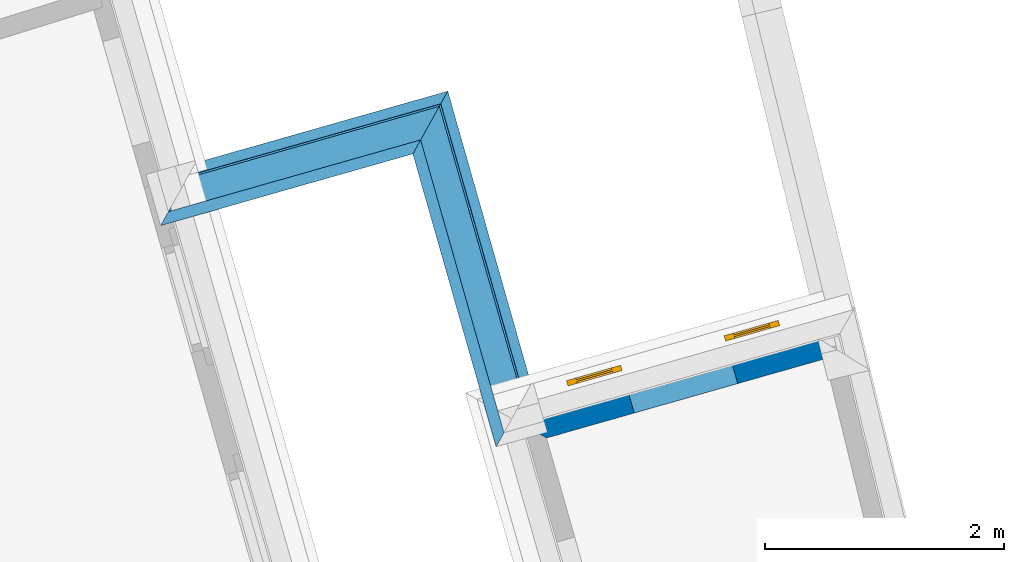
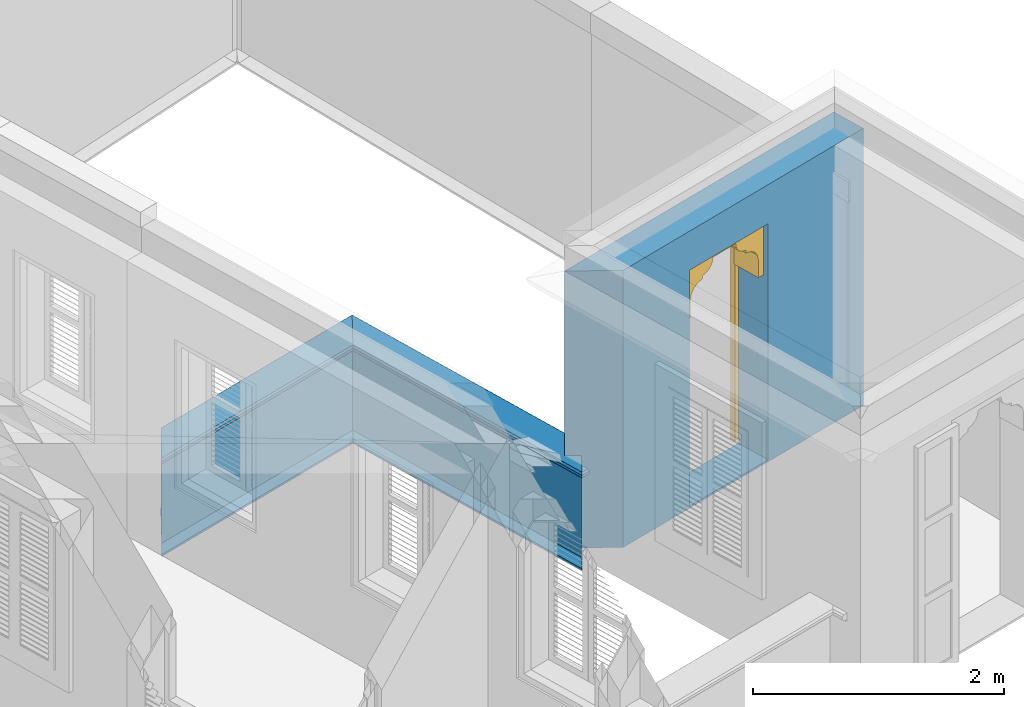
# One storey, part 8 of 13: 7 walls, 1 door, 1 opening.
"""IFC4 building model written with IfcOpenShell, lengths in metres."""

from ifc_helpers import new_model, si_unit, frame, origin, origin_with_axes, place, context, subcontext, project, spatial, polyline, outline, extrude, clip, halfspace, faceted_brep, source, transform, mapped, material, layer, layer_set, layer_usage, material_profile, profile_set, profile_usage, type_object, type_shapes, element, fill, save


model = new_model("IFC4")

# Units and contexts
model_context = context("Model", 3, world=origin_with_axes())
body_context = subcontext(model_context, "Body", "Model", "MODEL_VIEW")
ifc_project = project(units=[si_unit("PLANEANGLEUNIT", "RADIAN"), si_unit("MASSUNIT", "GRAM", prefix="KILO"), si_unit("FORCEUNIT", "NEWTON", prefix="KILO"), si_unit("LENGTHUNIT", "METRE"), si_unit("AREAUNIT", "SQUARE_METRE"), si_unit("VOLUMEUNIT", "CUBIC_METRE")], contexts=[model_context, model_context])

# Site, building, storey
site_placement = place(None, origin_with_axes())
site = spatial("IfcSite", under=ifc_project, at=site_placement, Name="Site plot-3", CompositionType="ELEMENT")
building_placement = place(None, origin_with_axes())
building = spatial("IfcBuilding", under=site, at=building_placement, Name="Building plot-3", CompositionType="ELEMENT")
storey_placement = place(None, frame((0.0, 0.0, 3.3), z_axis=(0.0, 0.0, 1.0), x_axis=(1.0, 0.0, 0.0)))
storey = spatial("IfcBuildingStorey", under=building, at=storey_placement, Name="plot-3 1", CompositionType="ELEMENT", Elevation=3.3)

# Wall, opening, door
ifc_material = material(Name="Masonry")
ifc_layer = layer(ifc_material, 0.33, ventilated=False)
ifc_layer_set = layer_set([ifc_layer], Name="exterior_0.08_0.25")
ifc_layer_usage = layer_usage(ifc_layer_set, "AXIS2", "POSITIVE", -0.25)
wall_type_1 = type_object("IfcWallType", Name="exterior_0.08_0.25", PredefinedType="SOLIDWALL", material=ifc_layer_set)
wall_1_placement = place(storey_placement, frame((15.7349459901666, 23.7779529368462, 0.0), z_axis=(0.0, 0.0, 1.0), x_axis=(-0.961841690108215, -0.273606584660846, 0.0)))
wall_1 = element("IfcWall", 1, at=wall_1_placement, inside=storey, type_object=wall_type_1, material=ifc_layer_usage, Name="exterior", context=body_context, shape_type="SweptSolid", body=[
    extrude(outline(polyline([(-0.25, 0.0800000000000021), (-0.25, -0.249999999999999), (2.83528096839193, -0.249999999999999), (2.50528096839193, 0.0799999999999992), (-0.25, 0.0800000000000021)])), origin_with_axes(), (0.0, 0.0, 1.0), 2.7),
])
opening_placement = place(wall_1_placement, frame((0.842640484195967, 0.0, 0.02)))
opening = element("IfcOpeningElement", 2, at=opening_placement, cuts=wall_1, Name="My Opening", ObjectType="Opening", context=body_context, shape_type="SweptSolid", body=[
    extrude(outline(polyline([(0.0, -0.270000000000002), (0.900000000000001, -0.27), (0.900000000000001, 1.1), (4.44089209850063e-16, 1.1), (0.0, -0.270000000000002)])), origin_with_axes(), (0.0, 0.0, 1.0), 2.3),
])
door_type = type_object("IfcDoorType", Name="arch-900x2300", OperationType="SINGLE_SWING_LEFT", PredefinedType="NOTDEFINED")
shared_shape = source(origin(), body_context, "Body", "Brep", [
    faceted_brep([(-0.08, -0.02, 0.08), (-0.08, -0.02, 0.0), (-0.39, -0.02, 0.0), (-0.39, -0.02, 0.08), (-0.47, -0.02, 0.0), (-0.47, -0.02, 0.08), (-0.39, -0.035, 0.08), (-0.08, -0.035, 0.08), (0.0, -0.02, 0.08), (0.0, -0.02, 0.0), (-0.08, -0.066, 0.0), (-0.39, -0.066, 0.0), (-0.47, -0.066, 0.0), (-0.47, -0.066, 0.08), (-0.39, -0.02, 0.743333), (-0.47, -0.02, 0.743333), (-0.39, -0.035, 0.743333), (-0.08, -0.035, 0.743333), (-0.08, -0.02, 0.743333), (0.0, -0.02, 0.743333), (0.0, -0.066, 0.08), (0.0, -0.066, 0.0), (-0.39, -0.066, 0.08), (-0.08, -0.066, 0.08), (-0.47, -0.066, 0.743333), (-0.39, -0.02, 0.823333), (-0.47, -0.02, 0.823333), (0.0, -0.066, 0.743333), (0.0, -0.02, 0.823333), (-0.08, -0.02, 0.823333), (-0.08, -0.051, 0.08), (-0.39, -0.051, 0.08), (-0.39, -0.066, 0.743333), (-0.47, -0.066, 0.823333), (-0.39, -0.02, 1.486667), (-0.47, -0.02, 1.486667), (0.0, -0.066, 0.823333), (-0.08, -0.066, 0.743333), (0.0, -0.02, 1.486667), (-0.08, -0.02, 1.486667), (-0.08, -0.051, 0.743333), (-0.39, -0.051, 0.743333), (-0.39, -0.066, 0.823333), (-0.47, -0.066, 1.486667), (-0.39, -0.035, 0.823333), (-0.08, -0.035, 0.823333), (-0.39, -0.035, 1.486667), (-0.39, -0.02, 1.566667), (-0.47, -0.02, 1.566667), (0.0, -0.066, 1.486667), (-0.08, -0.066, 0.823333), (-0.08, -0.035, 1.486667), (0.0, -0.02, 1.566667), (-0.08, -0.02, 1.566667), (-0.39, -0.066, 1.486667), (-0.47, -0.066, 1.566667), (-0.39, -0.02, 2.23), (-0.47, -0.02, 2.23), (0.0, -0.066, 1.566667), (-0.08, -0.066, 1.486667), (0.0, -0.02, 2.23), (-0.08, -0.02, 2.23), (-0.08, -0.051, 0.823333), (-0.39, -0.051, 0.823333), (-0.39, -0.051, 1.486667), (-0.39, -0.066, 1.566667), (-0.47, -0.066, 2.23), (-0.39, -0.035, 1.566667), (-0.08, -0.035, 1.566667), (-0.39, -0.035, 2.23), (-0.39, -0.02, 2.31), (-0.47, -0.02, 2.31), (0.0, -0.066, 2.23), (-0.08, -0.066, 1.566667), (-0.08, -0.051, 1.486667), (-0.08, -0.035, 2.23), (0.0, -0.02, 2.31), (-0.08, -0.02, 2.31), (-0.39, -0.066, 2.23), (-0.47, -0.066, 2.31), (-0.39, -0.066, 2.31), (0.0, -0.066, 2.31), (-0.08, -0.066, 2.23), (-0.08, -0.066, 2.31), (-0.08, -0.051, 1.566667), (-0.39, -0.051, 1.566667), (-0.39, -0.051, 2.23), (-0.08, -0.051, 2.23), (1.29, -0.02, 0.08), (1.29, -0.02, 0.0), (0.98, -0.02, 0.0), (0.98, -0.02, 0.08), (1.37, -0.02, 0.08), (1.37, -0.02, 0.0), (0.98, -0.035, 0.08), (1.29, -0.035, 0.08), (0.9, -0.02, 0.0), (0.9, -0.02, 0.08), (1.29, -0.066, 0.0), (0.98, -0.066, 0.0), (1.37, -0.066, 0.08), (1.37, -0.066, 0.0), (1.37, -0.02, 0.743333), (1.29, -0.02, 0.743333), (1.29, -0.035, 0.743333), (0.98, -0.035, 0.743333), (0.98, -0.02, 0.743333), (0.9, -0.02, 0.743333), (0.9, -0.066, 0.0), (0.9, -0.066, 0.08), (0.98, -0.066, 0.08), (1.29, -0.066, 0.08), (1.37, -0.066, 0.743333), (1.37, -0.02, 0.823333), (1.29, -0.02, 0.823333), (0.9, -0.066, 0.743333), (0.98, -0.02, 0.823333), (0.9, -0.02, 0.823333), (1.29, -0.051, 0.08), (0.98, -0.051, 0.08), (1.29, -0.066, 0.743333), (1.37, -0.066, 0.823333), (1.37, -0.02, 1.486667), (1.29, -0.02, 1.486667), (0.9, -0.066, 0.823333), (0.98, -0.066, 0.743333), (0.98, -0.02, 1.486667), (0.9, -0.02, 1.486667), (0.98, -0.051, 0.743333), (1.29, -0.051, 0.743333), (1.29, -0.066, 0.823333), (1.37, -0.066, 1.486667), (0.98, -0.035, 0.823333), (1.29, -0.035, 0.823333), (1.29, -0.035, 1.486667), (1.37, -0.02, 1.566667), (1.29, -0.02, 1.566667), (0.9, -0.066, 1.486667), (0.98, -0.066, 0.823333), (0.98, -0.035, 1.486667), (0.98, -0.02, 1.566667), (0.9, -0.02, 1.566667), (1.29, -0.066, 1.486667), (1.37, -0.066, 1.566667), (1.37, -0.02, 2.23), (1.29, -0.02, 2.23), (0.9, -0.066, 1.566667), (0.98, -0.066, 1.486667), (0.98, -0.02, 2.23), (0.9, -0.02, 2.23), (1.29, -0.051, 0.823333), (0.98, -0.051, 0.823333), (1.29, -0.051, 1.486667), (1.29, -0.066, 1.566667), (1.37, -0.066, 2.23), (0.98, -0.035, 1.566667), (1.29, -0.035, 1.566667), (1.29, -0.035, 2.23), (1.37, -0.02, 2.31), (1.29, -0.02, 2.31), (0.9, -0.066, 2.23), (0.98, -0.066, 1.566667), (0.98, -0.051, 1.486667), (0.98, -0.035, 2.23), (0.98, -0.02, 2.31), (0.9, -0.02, 2.31), (1.29, -0.066, 2.23), (1.37, -0.066, 2.31), (1.29, -0.066, 2.31), (0.9, -0.066, 2.31), (0.98, -0.066, 2.23), (0.98, -0.066, 2.31), (1.29, -0.051, 1.566667), (0.98, -0.051, 1.566667), (1.29, -0.051, 2.23), (0.98, -0.051, 2.23), (0.9, 0.03, 1.78), (0.9, 0.03, 1.95), (0.84, 0.03, 1.95), (0.84, 0.03, 1.78), (0.84, 0.3, 1.95), (0.84, 0.3, 1.78), (0.9, 0.03, 2.12), (0.829, 0.03, 2.004), (0.9, 0.3, 1.78), (0.9, 0.3, 1.95), (0.829, 0.3, 2.004), (0.799, 0.03, 2.049), (0.9, 0.3, 2.12), (0.799, 0.3, 2.049), (0.754, 0.03, 2.079), (0.9, 0.3, 2.29), (0.9, 0.03, 2.29), (0.754, 0.3, 2.079), (0.7, 0.03, 2.09), (0.7, 0.03, 2.12), (0.654, 0.03, 2.129), (0.58, 0.3, 2.29), (0.58, 0.03, 2.29), (0.7, 0.3, 2.12), (0.654, 0.3, 2.129), (0.7, 0.3, 2.09), (0.615, 0.03, 2.155), (0.589, 0.3, 2.194), (0.58, 0.3, 2.24), (0.58, 0.03, 2.24), (0.589, 0.03, 2.194), (0.615, 0.3, 2.155), (0.06, 0.03, 1.78), (0.06, 0.03, 1.95), (0.0, 0.03, 1.95), (0.0, 0.03, 1.78), (0.06, 0.3, 1.78), (0.06, 0.3, 1.95), (0.071, 0.03, 2.004), (0.0, 0.03, 2.12), (0.0, 0.3, 1.95), (0.0, 0.3, 1.78), (0.071, 0.3, 2.004), (0.101, 0.03, 2.049), (0.0, 0.3, 2.12), (0.101, 0.3, 2.049), (0.146, 0.03, 2.079), (0.0, 0.03, 2.29), (0.0, 0.3, 2.29), (0.146, 0.3, 2.079), (0.2, 0.03, 2.12), (0.2, 0.03, 2.09), (0.246, 0.03, 2.129), (0.32, 0.03, 2.29), (0.32, 0.3, 2.29), (0.246, 0.3, 2.129), (0.2, 0.3, 2.12), (0.2, 0.3, 2.09), (0.285, 0.03, 2.155), (0.32, 0.3, 2.24), (0.311, 0.3, 2.194), (0.311, 0.03, 2.194), (0.32, 0.03, 2.24), (0.285, 0.3, 2.155)], [[[0, 1, 2, 3]], [[4, 5, 3, 2]], [[0, 3, 6, 7]], [[1, 0, 8, 9]], [[2, 1, 10, 11]], [[5, 4, 12, 13]], [[14, 3, 5, 15]], [[4, 2, 11, 12]], [[3, 14, 16, 6]], [[6, 16, 17, 7]], [[18, 0, 7, 17]], [[0, 18, 19, 8]], [[9, 8, 20, 21]], [[1, 9, 21, 10]], [[22, 11, 10, 23]], [[13, 12, 11, 22]], [[15, 5, 13, 24]], [[25, 14, 15, 26]], [[14, 18, 17, 16]], [[8, 19, 27, 20]], [[28, 19, 18, 29]], [[23, 10, 21, 20]], [[22, 23, 30, 31]], [[22, 32, 24, 13]], [[26, 15, 24, 33]], [[29, 18, 14, 25]], [[34, 25, 26, 35]], [[19, 28, 36, 27]], [[20, 27, 37, 23]], [[38, 28, 29, 39]], [[23, 37, 40, 30]], [[41, 31, 30, 40]], [[32, 22, 31, 41]], [[32, 42, 33, 24]], [[35, 26, 33, 43]], [[29, 25, 44, 45]], [[25, 34, 46, 44]], [[47, 34, 35, 48]], [[28, 38, 49, 36]], [[27, 36, 50, 37]], [[39, 29, 45, 51]], [[52, 38, 39, 53]], [[37, 32, 41, 40]], [[37, 50, 42, 32]], [[42, 54, 43, 33]], [[48, 35, 43, 55]], [[44, 46, 51, 45]], [[34, 39, 51, 46]], [[34, 47, 53, 39]], [[56, 47, 48, 57]], [[38, 52, 58, 49]], [[36, 49, 59, 50]], [[60, 52, 53, 61]], [[42, 50, 62, 63]], [[54, 42, 63, 64]], [[54, 65, 55, 43]], [[57, 48, 55, 66]], [[53, 47, 67, 68]], [[47, 56, 69, 67]], [[70, 56, 57, 71]], [[52, 60, 72, 58]], [[49, 58, 73, 59]], [[50, 59, 74, 62]], [[61, 53, 68, 75]], [[76, 60, 61, 77]], [[64, 63, 62, 74]], [[59, 54, 64, 74]], [[65, 54, 59, 73]], [[65, 78, 66, 55]], [[71, 57, 66, 79]], [[67, 69, 75, 68]], [[56, 61, 75, 69]], [[77, 61, 56, 70]], [[70, 71, 79, 80]], [[60, 76, 81, 72]], [[58, 72, 82, 73]], [[76, 77, 83, 81]], [[65, 73, 84, 85]], [[78, 65, 85, 86]], [[78, 80, 79, 66]], [[77, 70, 80, 83]], [[72, 81, 83, 82]], [[73, 82, 87, 84]], [[86, 85, 84, 87]], [[82, 78, 86, 87]], [[82, 83, 80, 78]], [[88, 89, 90, 91]], [[89, 88, 92, 93]], [[94, 95, 88, 91]], [[96, 97, 91, 90]], [[98, 99, 90, 89]], [[100, 101, 93, 92]], [[102, 92, 88, 103]], [[101, 98, 89, 93]], [[95, 104, 103, 88]], [[94, 105, 104, 95]], [[105, 94, 91, 106]], [[97, 107, 106, 91]], [[108, 109, 97, 96]], [[99, 108, 96, 90]], [[110, 99, 98, 111]], [[111, 98, 101, 100]], [[112, 100, 92, 102]], [[113, 102, 103, 114]], [[104, 105, 106, 103]], [[109, 115, 107, 97]], [[116, 106, 107, 117]], [[109, 108, 99, 110]], [[118, 119, 110, 111]], [[100, 112, 120, 111]], [[121, 112, 102, 113]], [[114, 103, 106, 116]], [[122, 113, 114, 123]], [[115, 124, 117, 107]], [[110, 125, 115, 109]], [[126, 116, 117, 127]], [[119, 128, 125, 110]], [[128, 119, 118, 129]], [[129, 118, 111, 120]], [[112, 121, 130, 120]], [[131, 121, 113, 122]], [[132, 133, 114, 116]], [[133, 134, 123, 114]], [[135, 122, 123, 136]], [[124, 137, 127, 117]], [[125, 138, 124, 115]], [[139, 132, 116, 126]], [[140, 126, 127, 141]], [[128, 129, 120, 125]], [[120, 130, 138, 125]], [[121, 131, 142, 130]], [[143, 131, 122, 135]], [[132, 139, 134, 133]], [[134, 139, 126, 123]], [[126, 140, 136, 123]], [[144, 135, 136, 145]], [[137, 146, 141, 127]], [[138, 147, 137, 124]], [[148, 140, 141, 149]], [[150, 151, 138, 130]], [[152, 150, 130, 142]], [[131, 143, 153, 142]], [[154, 143, 135, 144]], [[155, 156, 136, 140]], [[156, 157, 145, 136]], [[158, 144, 145, 159]], [[146, 160, 149, 141]], [[147, 161, 146, 137]], [[151, 162, 147, 138]], [[163, 155, 140, 148]], [[164, 148, 149, 165]], [[162, 151, 150, 152]], [[162, 152, 142, 147]], [[161, 147, 142, 153]], [[143, 154, 166, 153]], [[167, 154, 144, 158]], [[155, 163, 157, 156]], [[157, 163, 148, 145]], [[159, 145, 148, 164]], [[168, 167, 158, 159]], [[160, 169, 165, 149]], [[161, 170, 160, 146]], [[169, 171, 164, 165]], [[172, 173, 161, 153]], [[174, 172, 153, 166]], [[154, 167, 168, 166]], [[171, 168, 159, 164]], [[170, 171, 169, 160]], [[173, 175, 170, 161]], [[175, 173, 172, 174]], [[175, 174, 166, 170]], [[166, 168, 171, 170]], [[176, 177, 178, 179]], [[180, 181, 179, 178]], [[177, 182, 183, 178]], [[177, 176, 184, 185]], [[181, 184, 176, 179]], [[181, 180, 185, 184]], [[186, 180, 178, 183]], [[182, 187, 183]], [[182, 177, 185, 188]], [[180, 186, 188, 185]], [[189, 186, 183, 187]], [[182, 190, 187]], [[188, 191, 192, 182]], [[188, 186, 189]], [[193, 189, 187, 190]], [[194, 190, 182, 195]], [[182, 192, 196, 195]], [[192, 191, 197, 198]], [[199, 200, 191, 188]], [[188, 189, 193]], [[201, 193, 190, 194]], [[199, 201, 194, 195]], [[200, 199, 195, 196]], [[192, 202, 196]], [[191, 203, 204, 197]], [[192, 198, 205, 206]], [[207, 191, 200]], [[199, 188, 193, 201]], [[207, 200, 196, 202]], [[192, 206, 202]], [[204, 203, 206, 205]], [[203, 191, 207]], [[203, 207, 202, 206]], [[208, 209, 210, 211]], [[209, 208, 212, 213]], [[209, 214, 215, 210]], [[211, 210, 216, 217]], [[208, 211, 217, 212]], [[217, 216, 213, 212]], [[214, 209, 213, 218]], [[214, 219, 215]], [[220, 216, 210, 215]], [[216, 220, 218, 213]], [[219, 214, 218, 221]], [[219, 222, 215]], [[215, 223, 224, 220]], [[221, 218, 220]], [[222, 219, 221, 225]], [[226, 215, 222, 227]], [[226, 228, 223, 215]], [[229, 230, 224, 223]], [[220, 224, 231, 232]], [[225, 221, 220]], [[227, 222, 225, 233]], [[226, 227, 233, 232]], [[228, 226, 232, 231]], [[228, 234, 223]], [[230, 235, 236, 224]], [[237, 238, 229, 223]], [[231, 224, 239]], [[233, 225, 220, 232]], [[234, 228, 231, 239]], [[234, 237, 223]], [[238, 237, 236, 235]], [[239, 224, 236]], [[237, 234, 239, 236]], [[238, 235, 204, 205]], [[235, 230, 197, 204]], [[229, 238, 205, 198]], [[230, 229, 198, 197]]]),
])
type_shapes(door_type, [shared_shape])
door_placement = place(storey_placement, frame((14.8505854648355, 23.8070982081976, 0.02), z_axis=(0.0, 0.0, 1.0), x_axis=(-0.865657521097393, -0.246245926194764, 0.0)))
door = element("IfcDoor", 3, at=door_placement, inside=storey, type_object=door_type, Name="circulation sahn door", OverallHeight=2.3, OverallWidth=0.9, context=body_context, shape_type="MappedRepresentation", body=[
    mapped(shared_shape, transform((0.0, 0.0, 0.0), scale=1.0)),
])
fill(opening, door)

# Walls
ifc_material_profile_1 = material_profile(None, outline(polyline([(0.25, 0.0), (0.25, 0.795), (0.09, 0.795), (0.09, 0.02), (-0.08, 0.02), (-0.08, 0.0), (0.25, 0.0)])))
ifc_profile_set_1 = profile_set([ifc_material_profile_1])
ifc_profile_usage_1 = profile_usage(ifc_profile_set_1)
wall_type_2 = type_object("IfcWallType", Name="parapet internal_0", PredefinedType="PARAPET", material=ifc_profile_set_1)
wall_2_placement = place(storey_placement, frame((13.4287909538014, 26.091037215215, 0.0), z_axis=(-0.961841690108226, -0.273606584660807, 0.0), x_axis=(0.273606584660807, -0.961841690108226, 0.0)))
element("IfcWall", 4, at=wall_2_placement, inside=storey, type_object=wall_type_2, material=ifc_profile_usage_1, Name="parapet internal_0", context=body_context, shape_type="Clipping", body=[
    clip(clip(extrude(outline(polyline([(0.25, 0.0), (0.25, 0.795), (0.09, 0.795), (0.09, 0.02), (-0.08, 0.02), (-0.08, 0.0), (0.25, 0.0)])), origin_with_axes(), (0.0, 0.0, 1.0), 4.19293777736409), halfspace(frame((0.0, 0.0, 3.19293777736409), z_axis=(0.707106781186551, 0.0, -0.707106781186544), x_axis=(0.0, 1.0, 0.0)), True)), halfspace(frame((0.0, 0.0, 1.0), z_axis=(0.707106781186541, 0.0, -0.707106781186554), x_axis=(0.0, 1.0, 0.0)), False)),
])
ifc_profile_usage_2 = profile_usage(ifc_profile_set_1)
wall_3_placement = place(storey_placement, frame((13.4371035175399, 22.4069322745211, 0.0), z_axis=(-0.273606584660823, 0.961841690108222, 0.0), x_axis=(-0.961841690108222, -0.273606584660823, 0.0)))
element("IfcWall", 5, at=wall_3_placement, inside=storey, type_object=wall_type_2, material=ifc_profile_usage_2, Name="parapet internal_0", context=body_context, shape_type="Clipping", body=[
    clip(clip(extrude(outline(polyline([(0.25, 0.0), (0.25, 0.795), (0.09, 0.795), (0.09, 0.02), (-0.08, 0.02), (-0.08, 0.0), (0.25, 0.0)])), origin_with_axes(), (0.0, 0.0, 1.0), 4.54580009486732), halfspace(frame((0.0, 0.0, 3.54580009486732), z_axis=(-0.707106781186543, 0.0, -0.707106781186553), x_axis=(0.0, 1.0, 0.0)), True)), halfspace(frame((0.0, 0.0, 1.0), z_axis=(-0.707106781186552, 0.0, -0.707106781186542), x_axis=(0.0, 1.0, 0.0)), False)),
])
ifc_material_profile_2 = material_profile(None, outline(polyline([(0.265, 0.795), (0.268, 0.807), (0.274, 0.816), (0.283, 0.822), (0.295, 0.825), (0.295, 0.84), (0.305, 0.84), (0.317, 0.842), (0.326, 0.849), (0.333, 0.858), (0.335, 0.87), (0.333, 0.882), (0.326, 0.891), (0.317, 0.898), (0.305, 0.9), (0.035, 0.9), (0.023, 0.898), (0.014, 0.891), (0.007, 0.882), (0.005, 0.87), (0.007, 0.858), (0.014, 0.849), (0.023, 0.842), (0.035, 0.84), (0.045, 0.84), (0.045, 0.825), (0.057, 0.822), (0.066, 0.816), (0.072, 0.807), (0.075, 0.795), (0.265, 0.795)])))
ifc_profile_set_2 = profile_set([ifc_material_profile_2])
ifc_profile_usage_3 = profile_usage(ifc_profile_set_2)
wall_type_3 = type_object("IfcWallType", Name="parapet internal_1", PredefinedType="PARAPET", material=ifc_profile_set_2)
wall_4_placement = place(storey_placement, frame((13.4287909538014, 26.091037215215, 0.0), z_axis=(-0.961841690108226, -0.273606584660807, 0.0), x_axis=(0.273606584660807, -0.961841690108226, 0.0)))
element("IfcWall", 6, at=wall_4_placement, inside=storey, type_object=wall_type_3, material=ifc_profile_usage_3, Name="parapet internal_1", context=body_context, shape_type="Clipping", body=[
    clip(clip(extrude(outline(polyline([(0.265, 0.795), (0.268, 0.807), (0.274, 0.816), (0.283, 0.822), (0.295, 0.825), (0.295, 0.84), (0.305, 0.84), (0.317, 0.842), (0.326, 0.849), (0.333, 0.858), (0.335, 0.87), (0.333, 0.882), (0.326, 0.891), (0.317, 0.898), (0.305, 0.9), (0.035, 0.9), (0.023, 0.898), (0.014, 0.891), (0.007, 0.882), (0.005, 0.87), (0.007, 0.858), (0.014, 0.849), (0.023, 0.842), (0.035, 0.84), (0.045, 0.84), (0.045, 0.825), (0.057, 0.822), (0.066, 0.816), (0.072, 0.807), (0.075, 0.795), (0.265, 0.795)])), origin_with_axes(), (0.0, 0.0, 1.0), 4.19293777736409), halfspace(frame((0.0, 0.0, 3.19293777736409), z_axis=(0.707106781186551, 0.0, -0.707106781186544), x_axis=(0.0, 1.0, 0.0)), True)), halfspace(frame((0.0, 0.0, 1.0), z_axis=(0.707106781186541, 0.0, -0.707106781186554), x_axis=(0.0, 1.0, 0.0)), False)),
])
ifc_profile_usage_4 = profile_usage(ifc_profile_set_2)
wall_5_placement = place(storey_placement, frame((13.4371035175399, 22.4069322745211, 0.0), z_axis=(-0.273606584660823, 0.961841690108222, 0.0), x_axis=(-0.961841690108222, -0.273606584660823, 0.0)))
element("IfcWall", 7, at=wall_5_placement, inside=storey, type_object=wall_type_3, material=ifc_profile_usage_4, Name="parapet internal_1", context=body_context, shape_type="Clipping", body=[
    clip(clip(extrude(outline(polyline([(0.265, 0.795), (0.268, 0.807), (0.274, 0.816), (0.283, 0.822), (0.295, 0.825), (0.295, 0.84), (0.305, 0.84), (0.317, 0.842), (0.326, 0.849), (0.333, 0.858), (0.335, 0.87), (0.333, 0.882), (0.326, 0.891), (0.317, 0.898), (0.305, 0.9), (0.035, 0.9), (0.023, 0.898), (0.014, 0.891), (0.007, 0.882), (0.005, 0.87), (0.007, 0.858), (0.014, 0.849), (0.023, 0.842), (0.035, 0.84), (0.045, 0.84), (0.045, 0.825), (0.057, 0.822), (0.066, 0.816), (0.072, 0.807), (0.075, 0.795), (0.265, 0.795)])), origin_with_axes(), (0.0, 0.0, 1.0), 4.54580009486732), halfspace(frame((0.0, 0.0, 3.54580009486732), z_axis=(-0.707106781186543, 0.0, -0.707106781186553), x_axis=(0.0, 1.0, 0.0)), True)), halfspace(frame((0.0, 0.0, 1.0), z_axis=(-0.707106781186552, 0.0, -0.707106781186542), x_axis=(0.0, 1.0, 0.0)), False)),
])
ifc_material_profile_3 = material_profile(None, outline(polyline([(0.25, -0.1), (0.265, -0.1), (0.265, -0.085), (0.278, -0.084), (0.289, -0.081), (0.301, -0.074), (0.309, -0.065), (0.315, -0.055), (0.324, -0.044), (0.334, -0.038), (0.345, -0.035), (0.345, -0.015), (0.25, 0.0), (0.25, -0.1)])))
ifc_profile_set_3 = profile_set([ifc_material_profile_3])
ifc_profile_usage_5 = profile_usage(ifc_profile_set_3)
wall_type_4 = type_object("IfcWallType", Name="parapet internal_2", PredefinedType="PARAPET", material=ifc_profile_set_3)
wall_6_placement = place(storey_placement, frame((13.4287909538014, 26.091037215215, 0.0), z_axis=(-0.961841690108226, -0.273606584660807, 0.0), x_axis=(0.273606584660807, -0.961841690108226, 0.0)))
element("IfcWall", 8, at=wall_6_placement, inside=storey, type_object=wall_type_4, material=ifc_profile_usage_5, Name="parapet internal_2", context=body_context, shape_type="Clipping", body=[
    clip(clip(extrude(outline(polyline([(0.25, -0.1), (0.265, -0.1), (0.265, -0.085), (0.278, -0.084), (0.289, -0.081), (0.301, -0.074), (0.309, -0.065), (0.315, -0.055), (0.324, -0.044), (0.334, -0.038), (0.345, -0.035), (0.345, -0.015), (0.25, 0.0), (0.25, -0.1)])), origin_with_axes(), (0.0, 0.0, 1.0), 4.19293777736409), halfspace(frame((0.0, 0.0, 3.19293777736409), z_axis=(0.707106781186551, 0.0, -0.707106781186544), x_axis=(0.0, 1.0, 0.0)), True)), halfspace(frame((0.0, 0.0, 1.0), z_axis=(0.707106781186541, 0.0, -0.707106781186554), x_axis=(0.0, 1.0, 0.0)), False)),
])
ifc_profile_usage_6 = profile_usage(ifc_profile_set_3)
wall_7_placement = place(storey_placement, frame((13.4371035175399, 22.4069322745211, 0.0), z_axis=(-0.273606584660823, 0.961841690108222, 0.0), x_axis=(-0.961841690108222, -0.273606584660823, 0.0)))
element("IfcWall", 9, at=wall_7_placement, inside=storey, type_object=wall_type_4, material=ifc_profile_usage_6, Name="parapet internal_2", context=body_context, shape_type="Clipping", body=[
    clip(clip(extrude(outline(polyline([(0.25, -0.1), (0.265, -0.1), (0.265, -0.085), (0.278, -0.084), (0.289, -0.081), (0.301, -0.074), (0.309, -0.065), (0.315, -0.055), (0.324, -0.044), (0.334, -0.038), (0.345, -0.035), (0.345, -0.015), (0.25, 0.0), (0.25, -0.1)])), origin_with_axes(), (0.0, 0.0, 1.0), 4.54580009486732), halfspace(frame((0.0, 0.0, 3.54580009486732), z_axis=(-0.707106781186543, 0.0, -0.707106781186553), x_axis=(0.0, 1.0, 0.0)), True)), halfspace(frame((0.0, 0.0, 1.0), z_axis=(-0.707106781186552, 0.0, -0.707106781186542), x_axis=(0.0, 1.0, 0.0)), False)),
])

save(model, "model.ifc")
